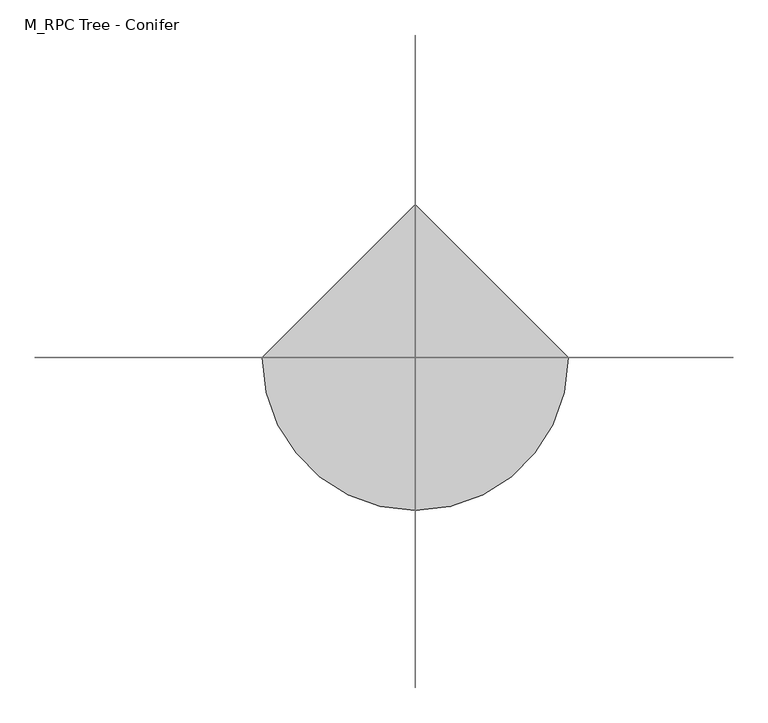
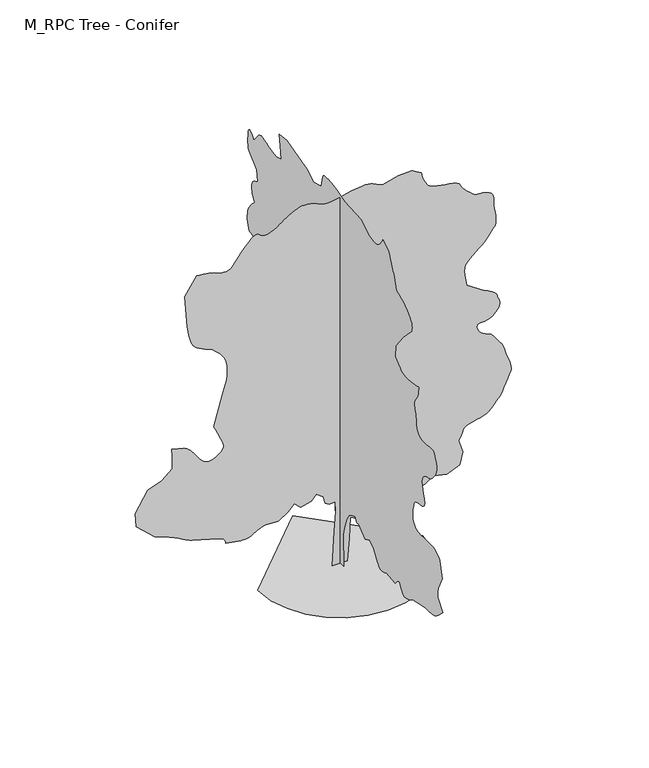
"""IFC4 building model written with IfcOpenShell, lengths in millimetres: geographic element geometry, M_RPC Tree - Conifer : Colorado Spruce - 4.0 Meters."""

from ifc_helpers import new_model, si_unit, origin, place, context, project, spatial, triangles, source, transform, mapped, element, save


def m_rpc_tree_conifer_5a218269(model_context):
    return source(origin(), model_context, "Body", "Tessellation", [
        triangles([(0.1938893, 270.053538, 0.0141112), (0.1938893, -248.7047685, 0.0141112), (0.1938893, -203.5947312, 1285.634317), (0.1938893, -293.81397, 1669.0638199), (0.1938893, -429.1420106, 2029.9390308), (0.1938893, -587.0254695, 2278.0392941), (0.1938893, -767.4631113, 2390.8143871), (0.1938893, -993.0090826, 2481.0311188), (0.1938893, -1083.2300291, 2278.0392941), (0.1938893, -1241.113488, 2323.1475872), (0.1938893, -1421.5510208, 2142.7099091), (0.1938893, -1669.651284, 1984.8265228), (0.1938893, -1962.8640553, 2120.1557625), (0.1938893, -2233.5183197, 1939.7182297), (0.1938893, -2413.9559978, 1623.9513119), (0.1938893, -2457.6185944, 1561.6136925), (0.1938893, -2502.2684853, 1502.2344681), (0.1938893, -2548.8894768, 1448.7761032), (0.1938893, -2598.4727875, 1404.192778), (0.1938893, -2651.9980087, 1371.446957), (0.1938893, -2710.4563591, 1353.492675), (0.1938893, -2774.8312088, 1353.2969021), (0.1938893, -2836.5771492, 1364.2760284), (0.1938893, -2887.6731583, 1377.6260857), (0.1938893, -2929.8856979, 1392.9469528), (0.1938893, -2965.0021591, 1409.8469387), (0.1938893, -2994.7898758, 1427.9302826), (0.1938893, -3021.0272278, 1446.8052933), (0.1938893, -3045.4899788, 1466.0677803), (0.1938893, -3631.911161, 1398.4051952), (0.1938893, -3689.7111214, 1465.1511211), (0.1938893, -3746.3280144, 1526.3678787), (0.1938893, -3800.5779007, 1576.5428684), (0.1938893, -3851.2780037, 1610.1428524), (0.1938893, -3897.2406052, 1621.6513069), (0.1938893, -3937.2864166, 1605.5428425), (0.1938893, -3970.2320801, 1556.2887268), (0.1938893, -4003.3073868, 1485.4677589), (0.1938893, -4044.2740723, 1412.2802204), (0.1938893, -4092.7365211, 1342.6427559), (0.1938893, -4148.3031876, 1282.4759342), (0.1938893, -4210.5865952, 1237.6968361), (0.1938893, -4279.1699089, 1214.2217428), (0.1938893, -4353.6700127, 1217.9675898), (0.1938893, -4428.3785339, 1239.93013), (0.1938893, -4498.3367638, 1266.6260296), (0.1938893, -4564.336805, 1297.2718334), (0.1938893, -4627.2117462, 1331.0718052), (0.1938893, -4687.7118324, 1367.238493), (0.1938893, -4746.6285851, 1404.9802299), (0.1938893, -4804.7538162, 1443.5136337), (0.1938893, -5616.7123947, 1601.39702), (0.1938893, -5718.0044678, 1601.5970078), (0.1938893, -5817.8791855, 1602.976284), (0.1938893, -5915.0046524, 1606.7262005), (0.1938893, -6007.9629318, 1614.0221214), (0.1938893, -6095.4215469, 1626.0596134), (0.1938893, -6176.0050003, 1644.0095352), (0.1938893, -6248.25466, 1669.0638199), (0.1938893, -6317.8800613, 1705.2930038), (0.1938893, -6391.0883835, 1754.5471195), (0.1938893, -6467.2133881, 1814.651445), (0.1938893, -6545.7551056, 1883.430677), (0.1938893, -6626.0467163, 1958.7223022), (0.1938893, -6707.5051163, 2038.3556683), (0.1938893, -6789.5884781, 2120.1557625), (0.1938893, -6473.7967072, 2481.0311188), (0.1938893, -6464.421698, 2548.6310623), (0.1938893, -6456.5884552, 2615.8353905), (0.1938893, -6451.9218796, 2682.2479065), (0.1938893, -6451.9631561, 2747.481134), (0.1938893, -6458.3383484, 2811.1313187), (0.1938893, -6472.6299179, 2872.8147629), (0.1938893, -6496.3802124, 2932.1271309), (0.1938893, -6744.4633255, 3450.8858734), (0.1938893, -6586.5886597, 4082.4156395), (0.1938893, -6574.2132523, 4099.8407387), (0.1938893, -6537.3800354, 4144.4906296), (0.1938893, -6476.5052628, 4204.9197899), (0.1938893, -6391.9214722, 4269.7114746), (0.1938893, -6284.0879379, 4327.3783035), (0.1938893, -6153.3796371, 4366.503241), (0.1938893, -6000.1715469, 4375.6282654), (0.1938893, -5829.4627808, 4368.5449768), (0.1938893, -5653.6293274, 4365.7532867), (0.1938893, -5484.0873505, 4366.1701218), (0.1938893, -5332.3373108, 4368.5449768), (0.1938893, -5209.7540955, 4371.6700768), (0.1938893, -5127.8370026, 4374.4617668), (0.1938893, -5097.9620819, 4375.6282654), (0.1938893, -5080.4619873, 4387.5449799), (0.1938893, -5035.3786926, 4421.1283951), (0.1938893, -4973.6702499, 4473.2949783), (0.1938893, -4906.4621429, 4540.7952187), (0.1938893, -4844.7952675, 4620.5868599), (0.1938893, -4799.7119728, 4709.4203911), (0.1938893, -4782.2118782, 4804.1704216), (0.1938893, -4785.5035378, 4898.837027), (0.1938893, -4794.7119873, 4990.0035553), (0.1938893, -4808.8369972, 5078.1708481), (0.1938893, -4826.9204865, 5164.003981), (0.1938893, -4847.9619347, 5248.0459442), (0.1938893, -4870.9619843, 5330.8792603), (0.1938893, -4894.9622635, 5413.128891), (0.1938893, -4914.7122208, 5437.2123047), (0.1938893, -4936.7951752, 5460.6707565), (0.1938893, -4963.6290024, 5482.9624191), (0.1938893, -4997.5455368, 5503.5041885), (0.1938893, -5040.9620728, 5521.629245), (0.1938893, -5096.2121887, 5536.837619), (0.1938893, -5165.6288818, 5548.4624908), (0.1938893, -5249.5871292, 5555.5876373), (0.1938893, -5340.295546, 5563.8789917), (0.1938893, -5427.796019, 5582.7958603), (0.1938893, -5502.2961227, 5621.8376633), (0.1938893, -5553.9208786, 5690.5044022), (0.1938893, -5572.7958893, 5798.212944), (0.1938893, -5549.0461761, 5954.462709), (0.1938893, -5500.4625137, 6131.0879745), (0.1938893, -5455.8373306, 6293.08797), (0.1938893, -5421.8376617, 6439.7551804), (0.1938893, -5405.1706558, 6570.2134964), (0.1938893, -5412.6289215, 6683.7135452), (0.1938893, -5450.8376358, 6779.4635147), (0.1938893, -5526.5045288, 6856.6303162), (0.1938893, -5619.2959579, 6910.7136429), (0.1938893, -5705.379657, 6943.8389465), (0.1938893, -5786.2962296, 6965.5469238), (0.1938893, -5863.7130157, 6985.2556046), (0.1938893, -5939.1293427, 7012.5051041), (0.1938893, -6014.1712738, 7056.6721756), (0.1938893, -6090.3794128, 7127.2969345), (0.1938893, -6168.0461838, 7217.1304047), (0.1938893, -6242.1300339, 7312.8803741), (0.1938893, -6306.3796005, 7414.9224014), (0.1938893, -6354.4632935, 7523.6727402), (0.1938893, -6380.0466156, 7639.547644), (0.1938893, -6376.796814, 7762.9226715), (0.1938893, -6338.4631073, 7894.1727997), (0.1938893, -6292.1717468, 8018.2977814), (0.1938893, -6260.8800522, 8119.5898544), (0.1938893, -6231.9632126, 8197.1729095), (0.1938893, -6192.7545593, 8250.2981552), (0.1938893, -6130.6711395, 8278.1731979), (0.1938893, -6033.0881424, 8280.0062256), (0.1938893, -5887.3795944, 8255.0478653), (0.1938893, -5714.5046814, 8227.4228073), (0.1938893, -5548.3374985, 8221.8812851), (0.1938893, -5395.5875198, 8238.4645752), (0.1938893, -5262.9624756, 8277.1314011), (0.1938893, -5157.1288193, 8337.8811813), (0.1938893, -5084.8791595, 8420.7563553), (0.1938893, -5052.8369293, 8525.6732071), (0.1938893, -5041.8788773, 8637.7564819), (0.1938893, -5028.5453888, 8742.6733337), (0.1938893, -5013.2120224, 8841.7149628), (0.1938893, -4996.2956131, 8936.0068817), (0.1938893, -4978.2124146, 9026.7571564), (0.1938893, -4959.3374039, 9115.1319946), (0.1938893, -4940.0874161, 9202.340625), (0.1938893, -4921.3373978, 9265.2152756), (0.1938893, -4906.1703003, 9328.2573578), (0.1938893, -4898.0452148, 9391.7156937), (0.1938893, -4900.6287781, 9455.7571335), (0.1938893, -4917.3789185, 9520.5903854), (0.1938893, -4951.9204147, 9586.4241577), (0.1938893, -5007.7536346, 9653.4241379), (0.1938893, -5067.4621994, 9735.6324921), (0.1938893, -5112.5454941, 9838.7157349), (0.1938893, -5145.0458359, 9950.5077484), (0.1938893, -5166.8788055, 10058.7581177), (0.1938893, -5180.0454437, 10151.2164276), (0.1938893, -5186.4624939, 10215.6334259), (0.1938893, -5188.1705292, 10239.8412506), (0.1938893, -5154.9208145, 10232.4242615), (0.1938893, -5065.6291718, 10213.5498322), (0.1938893, -4936.0870789, 10188.3827637), (0.1938893, -4782.0868858, 10162.0076294), (0.1938893, -4619.3785034, 10139.5915558), (0.1938893, -4463.7949768, 10126.2156281), (0.1938893, -4331.0867981, 10127.091156), (0.1938893, -4219.0447998, 10146.5911285), (0.1938893, -4114.1073097, 10183.8830383), (0.1938893, -4015.0781799, 10235.9659058), (0.1938893, -3920.7821915, 10299.8829346), (0.1938893, -3830.036277, 10372.6750031), (0.1938893, -3741.6611481, 10451.3829895), (0.1938893, -3654.4653076, 10533.0500977), (0.1938893, -3677.0194542, 11006.7165344), (0.1938893, -4173.2115509, 11638.2593811), (0.1938893, -4737.0870163, 12224.6759125), (0.1938893, -4745.9201981, 12297.3842651), (0.1938893, -4749.5871254, 12371.5099731), (0.1938893, -4743.0035156, 12448.3843506), (0.1938893, -4721.0452629, 12529.3840576), (0.1938893, -4678.586808, 12615.9264496), (0.1938893, -4610.4618965, 12709.3428406), (0.1938893, -4511.5452599, 12811.0936066), (0.1938893, -4395.5450729, 12908.8853119), (0.1938893, -4279.544886, 12991.2605164), (0.1938893, -4163.557489, 13060.8434784), (0.1938893, -4047.5613716, 13120.1352081), (0.1938893, -3931.5655449, 13171.759964), (0.1938893, -3815.5697182, 13218.260614), (0.1938893, -3699.5736008, 13262.1765381), (0.1938893, -3665.7111328, 13377.8438965), (0.1938893, -3631.6486771, 13491.5520721), (0.1938893, -3597.1903152, 13601.3023499), (0.1938893, -3562.1401291, 13705.1355469), (0.1938893, -3526.3027817, 13801.0517853), (0.1938893, -3489.4817734, 13887.1360657), (0.1938893, -3451.4736282, 13961.3861847), (0.1938893, -3409.3235847, 14042.3440338), (0.1938893, -3362.8316551, 14142.2193329), (0.1938893, -3315.9484703, 14249.5941742), (0.1938893, -3272.6150688, 14353.0111176), (0.1938893, -3236.7774307, 14441.0941132), (0.1938893, -3212.3815361, 14502.3031677), (0.1938893, -3203.3690048, 14525.2610687), (0.1938893, -2819.9397926, 14750.8031158), (0.1938893, -2800.2813995, 14711.9275818), (0.1938893, -2778.6478363, 14671.8858398), (0.1938893, -2753.0645142, 14629.4698242), (0.1938893, -2721.5687622, 14583.5110016), (0.1938893, -2682.1813408, 14532.8024689), (0.1938893, -2632.9270798, 14476.1780182), (0.1938893, -2571.8395294, 14412.4691162), (0.1938893, -2498.2562302, 14357.3027161), (0.1938893, -2414.0227089, 14324.6361053), (0.1938893, -2320.9100784, 14310.677655), (0.1938893, -2220.6975906, 14311.7194519), (0.1938893, -2115.155777, 14324.0105621), (0.1938893, -2006.0640347, 14343.8023773), (0.1938893, -1895.1972553, 14367.3439636), (0.1938893, -1398.9928047, 14705.6779633), (0.1938893, -316.3685889, 14773.3447632), (0.1938893, -176.5034706, 14811.8028809), (0.1938893, -38.4132803, 14849.0947906), (0.1938893, 96.1259095, 14884.011264), (0.1938893, 225.3384985, 14915.3860931), (0.1938893, 347.4494316, 14942.0112122), (0.1938893, 460.68369, 14962.7204132), (0.1938893, 563.2629301, 14976.345163), (0.1938893, 664.4005068, 14986.7201111), (0.1938893, 770.2672279, 14995.9276886), (0.1938893, 874.5589725, 15000.0111603), (0.1938893, 970.9590477, 14995.0114655), (0.1938893, 1053.1549753, 14977.0114014), (0.1938893, 1114.8342047, 14942.0112122), (0.1938893, 1149.6883999, 14886.1367157), (0.1938893, 1262.4592781, 14435.0107635), (0.1938893, 1758.6638741, 14299.7190216), (0.1938893, 2209.7600315, 14570.3443634), (0.1938893, 2773.6272125, 14705.6779633), (0.1938893, 3517.931781, 14931.2200104), (0.1938893, 4014.136377, 14863.5532104), (0.1938893, 3969.0240143, 14435.0107635), (0.1938893, 3878.8071373, 13938.8445374), (0.1938893, 4239.6699944, 13826.0525848), (0.1938893, 4600.54506, 13893.7193848), (0.1938893, 4740.0868332, 13946.1359528), (0.1938893, 4875.8788353, 13994.0109375), (0.1938893, 5004.1707138, 14032.8027557), (0.1938893, 5121.2124069, 14057.9686615), (0.1938893, 5223.2957108, 14065.0112549), (0.1938893, 5306.5871384, 14049.3436066), (0.1938893, 5367.4206345, 14006.4694794), (0.1938893, 5705.7546341, 13600.5105377), (0.1938893, 5782.6295929, 13690.3852844), (0.1938893, 5856.7128616, 13768.6351593), (0.1938893, 5925.2964661, 13823.6352905), (0.1938893, 5985.5881348, 13843.6770905), (0.1938893, 6034.8380356, 13817.1775452), (0.1938893, 6070.2963364, 13732.4687622), (0.1938893, 6089.171347, 13577.9270325), (0.1938893, 6094.8797195, 13406.3014618), (0.1938893, 6093.5048035, 13273.7607147), (0.1938893, 6086.2128067, 13173.717984), (0.1938893, 6074.1710999, 13099.7597076), (0.1938893, 6058.5877487, 13045.3014038), (0.1938893, 6040.6295425, 13003.8853271), (0.1938893, 6021.5045471, 12968.9688538), (0.1938893, 5502.7542343, 12540.4264069), (0.1938893, 5457.6290817, 12066.8006653), (0.1938893, 5529.7543304, 12037.3838562), (0.1938893, 5599.7541275, 12005.6346313), (0.1938893, 5665.3791916, 11969.1345337), (0.1938893, 5724.4627945, 11925.5511475), (0.1938893, 5774.9213425, 11872.4671783), (0.1938893, 5814.5043915, 11807.5502106), (0.1938893, 5841.046376, 11728.4678284), (0.1938893, 5851.212616, 11641.4673248), (0.1938893, 5844.7542892, 11554.4668213), (0.1938893, 5824.5043625, 11467.4674805), (0.1938893, 5793.2126678, 11380.4669769), (0.1938893, 5753.6296188, 11293.4664734), (0.1938893, 5708.5044662, 11206.4671326), (0.1938893, 5660.6294815, 11119.466629), (0.1938893, 5732.8378647, 11046.9664032), (0.1938893, 5803.2544968, 10974.2161926), (0.1938893, 5870.1294846, 10901.0915863), (0.1938893, 5931.671077, 10827.3832947), (0.1938893, 5986.1293808, 10752.8831909), (0.1938893, 6031.7132263, 10677.3831482), (0.1938893, 6066.6296997, 10600.7168976), (0.1938893, 6091.6711945, 10526.008667), (0.1938893, 6109.629982, 10456.0501465), (0.1938893, 6121.6711075, 10390.0495239), (0.1938893, 6128.9631042, 10327.174292), (0.1938893, 6132.7128754, 10266.6744965), (0.1938893, 6134.0877914, 10207.7583252), (0.1938893, 6134.2964996, 10149.6328033), (0.1938893, 5998.9628998, 9766.215509), (0.1938893, 5936.1713837, 9756.1324036), (0.1938893, 5873.5461365, 9743.7157196), (0.1938893, 5811.3377243, 9726.5493256), (0.1938893, 5749.7129974, 9702.2990616), (0.1938893, 5688.9207779, 9668.5493774), (0.1938893, 5629.0459442, 9622.9655319), (0.1938893, 5570.4210342, 9563.2156906), (0.1938893, 5517.0045273, 9492.2572311), (0.1938893, 5471.9206512, 9415.3822723), (0.1938893, 5433.7125183, 9333.5907532), (0.1938893, 5401.0040497, 9247.8401733), (0.1938893, 5372.4621872, 9159.1322159), (0.1938893, 5346.7125961, 9068.4650757), (0.1938893, 5322.2954819, 8976.7985779), (0.1938893, 5269.5039368, 8904.2570755), (0.1938893, 5218.8791199, 8831.5487228), (0.1938893, 5172.587178, 8758.4235352), (0.1938893, 5132.7954208, 8684.6733856), (0.1938893, 5101.7124344, 8610.1732819), (0.1938893, 5081.4206497, 8534.715097), (0.1938893, 5074.2123688, 8458.0482651), (0.1938893, 5096.7540161, 7849.0476471), (0.1938893, 5149.5455612, 7843.7142517), (0.1938893, 5200.212236, 7835.4228973), (0.1938893, 5246.5041779, 7821.2557388), (0.1938893, 5286.2540771, 7798.1728455), (0.1938893, 5317.3789215, 7763.2557907), (0.1938893, 5337.6288483, 7713.5059204), (0.1938893, 5344.8789871, 7646.0478287), (0.1938893, 5342.8791092, 7568.0892151), (0.1938893, 5337.3788635, 7488.8806778), (0.1938893, 5328.8793823, 7408.7559174), (0.1938893, 5318.0457413, 7327.7974869), (0.1938893, 5305.4209305, 7246.2553711), (0.1938893, 5291.5874725, 7164.3388596), (0.1938893, 5277.2121872, 7082.1723633), (0.1938893, 5254.6292633, 6631.088269), (0.1938893, 5683.1711288, 6653.6717743), (0.1938893, 6156.838147, 6743.8802216), (0.1938893, 6257.6296692, 6709.7549789), (0.1938893, 6354.2964432, 6673.8385666), (0.1938893, 6442.6718628, 6634.3799286), (0.1938893, 6518.6300171, 6589.5884766), (0.1938893, 6578.0048813, 6537.7131546), (0.1938893, 6616.6717072, 6476.9633743), (0.1938893, 6630.4633072, 6405.5468033), (0.1938893, 6626.5466858, 6315.0883713), (0.1938893, 6615.5049179, 6200.9215027), (0.1938893, 6598.5047928, 6067.0465347), (0.1938893, 6576.8386734, 5917.3795074), (0.1938893, 6551.5884705, 5755.8794815), (0.1938893, 6523.9634125, 5586.4624969), (0.1938893, 6495.1715652, 5413.128891), (0.1938893, 6292.1717468, 4871.8372215), (0.1938893, 6181.2965378, 4809.6288094), (0.1938893, 6072.2130798, 4751.170459), (0.1938893, 5966.6712662, 4700.2119415), (0.1938893, 5866.4628479, 4660.5036095), (0.1938893, 5773.3377182, 4635.7536667), (0.1938893, 5689.0876282, 4629.7953094), (0.1938893, 5615.5043289, 4646.2951744), (0.1938893, 4984.0039215, 4916.9202255), (0.1938893, 4352.4616562, 4713.9619743), (0.1938893, 3901.3612839, 4398.1699127), (0.1938893, 3450.2693413, 3721.5402832), (0.1938893, 3406.6068901, 3654.2693893), (0.1938893, 3361.9567085, 3589.3695717), (0.1938893, 3315.3316475, 3529.2026047), (0.1938893, 3265.7524063, 3476.1360764), (0.1938893, 3212.2274757, 3432.5401909), (0.1938893, 3153.7691254, 3400.7775948), (0.1938893, 3089.393985, 3383.2193642), (0.1938893, 3025.1481972, 3377.3691399), (0.1938893, 2964.8480988, 3377.8275421), (0.1938893, 2904.1520943, 3382.6275398), (0.1938893, 2838.7273087, 3389.7942535), (0.1938893, 2764.2228447, 3397.3568733), (0.1938893, 2676.306118, 3403.340229), (0.1938893, 2570.6352425, 3405.7735107), (0.1938893, 2457.2686157, 3397.2275208), (0.1938893, 2348.6393452, 3373.2900284), (0.1938893, 2243.9516945, 3336.5318069), (0.1938893, 2142.4224266, 3289.5149094), (0.1938893, 2043.2598747, 3234.8066208), (0.1938893, 1945.6764416, 3174.9689941), (0.1938893, 1848.8848206, 3112.5649544), (0.1938893, 1713.5554356, 2729.1354515), (0.1938893, 1330.126078, 2300.5934406), (0.1938893, 1277.1884663, 2243.2517372), (0.1938893, 1215.9717813, 2187.0974613), (0.1938893, 1147.8467245, 2131.926701), (0.1938893, 1074.1966415, 2077.5474621), (0.1938893, 996.4049509, 2023.7556873), (0.1938893, 915.8548531, 1970.3640335), (0.1938893, 833.9214821, 1917.1639378), (0.1938893, 698.5921698, 2390.8143871), (0.1938893, 473.0461985, 2706.5769447), (0.1938893, 382.8273957, 2503.5852654), (0.1938893, 315.1627396, 2187.8225624), (0.1938893, 292.6085567, 1623.9513119), (0.1938893, 247.4989373, 834.5381596), (279.662708, 0.0007153, 0.0357189), (-306.758565, 0.0007153, 0.0357189), (-216.5405798, 0.0006348, 1353.3176857), (-171.4309605, 0.0005874, 2142.730838), (-193.9855612, 0.0005633, 2548.718557), (-419.5328224, 0.0005646, 2526.1644104), (-577.416245, 0.0005594, 2616.3812874), (-645.0788664, 0.0005417, 2909.5939133), (-915.7374184, 0.000531, 3090.0314461), (-1096.1750238, 0.000543, 2887.0397667), (-1502.158746, 0.0005499, 2774.2646736), (-1750.2630787, 0.0005366, 2999.8104996), (-1998.3631966, 0.0005512, 2751.710527), (-2359.2385529, 0.0005646, 2526.1644104), (-2900.5511513, 0.0005633, 2548.718557), (-3171.2055611, 0.0005702, 2435.9436092), (-3229.3389313, 0.0005728, 2392.7392696), (-3288.2556839, 0.0005753, 2351.3143272), (-3348.7517006, 0.0005775, 2313.4393135), (-3411.6182121, 0.0005792, 2280.8892654), (-3477.6391823, 0.0005809, 2255.43922), (-3547.6017723, 0.0005818, 2238.8684292), (-3622.3018639, 0.0005822, 2232.9517845), (-3705.5520149, 0.0005822, 2235.5808392), (-3799.4520973, 0.0005818, 2242.9475407), (-3902.2269287, 0.0005809, 2254.255862), (-4012.1103378, 0.0005801, 2268.7225662), (-4127.3146431, 0.0005792, 2285.5559864), (-4246.0565231, 0.0005779, 2303.96838), (-4366.5982933, 0.0005771, 2323.1725857), (-4372.1816734, 0.000574, 2371.3726959), (-4382.3066368, 0.000571, 2418.780994), (-4401.5150574, 0.0005684, 2464.6143883), (-4434.3482277, 0.0005659, 2508.0812119), (-4485.3067451, 0.0005633, 2548.3895073), (-4558.9316116, 0.0005611, 2584.7521133), (-4659.8068497, 0.0005594, 2616.3812874), (-5652.224762, 0.0005417, 2909.5939133), (-5733.224469, 0.0005405, 2935.3022278), (-5819.7662796, 0.0005383, 2971.6689034), (-5909.0579224, 0.0005357, 3015.5272728), (-5998.3495651, 0.0005327, 3063.7272377), (-6084.8913757, 0.0005297, 3113.1108513), (-6165.933522, 0.0005271, 3160.5233643), (-6238.6418747, 0.0005245, 3202.8024696), (-6316.8498917, 0.0005219, 3243.4401054), (-6413.9753586, 0.0005194, 3287.6315941), (-6526.8504456, 0.0005163, 3334.7775536), (-6652.3922012, 0.0005138, 3384.2942986), (-6787.3921005, 0.0005107, 3435.5859352), (-6928.6840576, 0.0005073, 3488.0568604), (-7073.1839584, 0.0005043, 3541.1236794), (-7772.3511658, 0.0004651, 4195.2116615), (-7817.4763184, 0.0004328, 4736.5036217), (-7343.8093002, 0.0003871, 5503.3791962), (-6802.5173401, 0.0003751, 5706.3795959), (-6396.5165405, 0.0003548, 6044.7130142), (-6396.5165405, 0.0003243, 6563.463327), (-6419.1000458, 0.0003079, 6834.1305267), (-5945.4330276, 0.0003148, 6721.3385742), (-5892.0996552, 0.000317, 6686.9633469), (-5837.8082016, 0.0003191, 6649.2133255), (-5781.5162888, 0.0003217, 6604.7549927), (-5722.2664169, 0.0003247, 6550.2548309), (-5659.0580658, 0.000329, 6482.2967697), (-5590.9325729, 0.0003342, 6397.6298447), (-5516.8911621, 0.0003402, 6292.7967087), (-5441.849231, 0.0003467, 6182.6714539), (-5369.5995712, 0.0003527, 6085.5465683), (-5297.3493301, 0.0003574, 6003.4213486), (-5222.307399, 0.0003613, 5938.2543961), (-5141.7658035, 0.0003643, 5892.0043121), (-5052.9322723, 0.0003656, 5866.7128326), (-4953.0156967, 0.0003656, 5864.2542618), (-4843.8069557, 0.0003643, 5889.25448), (-4733.8069839, 0.0003613, 5939.8792969), (-4630.4734657, 0.000357, 6008.6710281), (-4541.3899498, 0.0003523, 6088.0882736), (-4473.9734253, 0.0003475, 6170.6716049), (-4435.7650017, 0.0003428, 6248.9214798), (-4434.2650932, 0.0003389, 6315.338356), (-4460.8483543, 0.0003346, 6387.1717621), (-4500.431694, 0.000329, 6483.8385361), (-4550.8483841, 0.0003217, 6601.2133484), (-4609.9735542, 0.0003139, 6735.1301743), (-4675.5983276, 0.0003053, 6881.505542), (-4745.5568481, 0.0002958, 7036.1722641), (-4817.6818062, 0.0002864, 7195.0055923), (-4501.9316025, 0.0002179, 8345.2563126), (-4458.7231934, 0.0002102, 8475.4646439), (-4417.3065353, 0.0002024, 8603.8818054), (-4379.4315216, 0.0001951, 8728.7567413), (-4346.8899033, 0.0001878, 8848.3401398), (-4321.4315735, 0.0001813, 8960.7571152), (-4304.8482834, 0.0001748, 9064.3403275), (-4298.9314934, 0.0001697, 9157.2573303), (-4300.4732597, 0.0001641, 9247.9238892), (-4305.5148125, 0.0001585, 9344.1319702), (-4314.9313889, 0.0001524, 9443.0904648), (-4329.4732338, 0.0001464, 9542.0489594), (-4349.8900108, 0.0001408, 9638.2576218), (-4377.0566666, 0.0001352, 9728.9241806), (-4411.7231552, 0.0001305, 9811.3406616), (-4456.3067711, 0.0001257, 9888.008075), (-4511.5565964, 0.0001214, 9963.5081177), (-4575.6401848, 0.0001171, 10038.0082214), (-4646.8483383, 0.0001124, 10111.7165131), (-4723.3901779, 0.0001081, 10184.8411194), (-4803.515229, 0.0001038, 10257.549472), (-4885.3488968, 9.95e-05, 10330.0915558), (-5015.3072433, 9.65e-05, 10383.3417938), (-5141.8907959, 9.3e-05, 10437.2164124), (-5261.766037, 9e-05, 10492.2584015), (-5371.5575912, 8.66e-05, 10549.0502838), (-5467.9743805, 8.31e-05, 10608.2582977), (-5547.5991714, 7.92e-05, 10670.3835754), (-5607.0996094, 7.54e-05, 10736.0911926), (-5653.9327972, 7.02e-05, 10823.6753815), (-5697.2243408, 6.33e-05, 10942.4251099), (-5736.1411514, 5.51e-05, 11079.342334), (-5769.9326935, 4.65e-05, 11221.3836639), (-5797.8077362, 3.83e-05, 11355.509198), (-5818.9744675, 3.19e-05, 11468.7592621), (-5832.682933, 2.71e-05, 11548.0509338), (-5922.8913803, -4.82e-05, 12811.0936066), (-5471.7660095, -9e-05, 13510.3020905), (-5351.2658066, -8.91e-05, 13495.6355438), (-5232.5160782, -8.83e-05, 13480.0109161), (-5117.3074127, -8.7e-05, 13462.3852478), (-5007.3908661, -8.57e-05, 13441.8016205), (-4904.6407425, -8.44e-05, 13417.2600952), (-4810.72351, -8.27e-05, 13387.8014282), (-4727.4736496, -8.05e-05, 13352.4268433), (-4642.8485825, -7.84e-05, 13318.2184662), (-4547.5567245, -7.71e-05, 13294.3013214), (-4447.5567238, -7.62e-05, 13282.5938965), (-4348.7232216, -7.67e-05, 13285.0937439), (-4256.973008, -7.75e-05, 13303.7600464), (-4178.2647308, -7.97e-05, 13340.5938446), (-4118.5020996, -8.31e-05, 13397.5101379), (-3757.627034, -0.0001115, 13871.1777374), (-3661.2268135, -0.000118, 13981.5105377), (-3566.4058571, -0.0001245, 14086.927359), (-3474.7434288, -0.0001301, 14182.4692017), (-3387.8100723, -0.0001348, 14263.218924), (-3307.1931908, -0.0001387, 14324.2605469), (-3234.4639091, -0.0001408, 14360.5943756), (-3171.2055611, -0.0001412, 14367.3858215), (-3120.3098305, -0.00014, 14350.4275543), (-3078.8847427, -0.0001382, 14322.8024963), (-3039.826371, -0.0001365, 14290.4277283), (-2996.0304977, -0.0001348, 14259.261026), (-2940.4013351, -0.0001331, 14235.2194702), (-2865.8303055, -0.0001326, 14224.177121), (-2765.2219116, -0.0001331, 14232.0522217), (-2645.0176208, -0.0001352, 14266.2605988), (-2521.6594528, -0.0001382, 14323.3443237), (-2403.0302113, -0.0001425, 14393.0110016), (-2297.0301407, -0.0001468, 14465.0949738), (-2211.5466957, -0.0001507, 14529.2608246), (-2154.4674763, -0.0001533, 14575.303363), (-2133.6883667, -0.0001546, 14592.9278687), (-2108.2425362, -0.0001555, 14609.2198975), (-2040.5799511, -0.000158, 14651.5940552), (-1943.7174042, -0.0001615, 14710.0951355), (-1830.6798271, -0.0001654, 14774.9283875), (-1714.4879368, -0.0001688, 14836.2199951), (-1608.1588165, -0.0001718, 14884.0949799), (-1524.7128925, -0.0001731, 14908.678363), (-1445.5419983, -0.0001735, 14914.1361694), (-1347.0376911, -0.0001735, 14910.9282257), (-1234.7250698, -0.0001727, 14898.6359528), (-1114.1250183, -0.0001714, 14876.8861176), (-990.7666323, -0.0001697, 14845.2613037), (-870.1665081, -0.0001671, 14803.3452576), (-757.8539595, -0.0001641, 14750.8031158), (-638.3746971, -0.0001615, 14707.9278259), (-495.2203537, -0.0001606, 14692.3031982), (-332.3389804, -0.0001606, 14699.3446289), (-153.6767934, -0.0001624, 14724.5116974), (36.8217395, -0.0001645, 14763.3035156), (235.2110064, -0.0001675, 14811.1785004), (437.5470208, -0.0001705, 14863.5950684), (577.2137864, -0.0001718, 14882.5113556), (713.9221933, -0.0001727, 14899.0952271), (844.7139919, -0.0001735, 14910.9282257), (966.626536, -0.0001735, 14915.6779358), (1076.7057907, -0.0001735, 14910.9282257), (1171.9892189, -0.0001723, 14894.3443542), (1249.5142834, -0.0001705, 14863.5950684), (1314.5476685, -0.0001684, 14827.5530823), (1374.8477669, -0.0001667, 14796.2608063), (1431.2018852, -0.0001649, 14768.8868958), (1484.3977661, -0.0001636, 14744.6779083), (1535.2311459, -0.0001624, 14722.8862152), (1584.481192, -0.0001611, 14702.5944305), (1632.9437862, -0.0001598, 14683.1363159), (2219.3649685, -0.0001692, 14841.0115631), (2738.1238564, -0.0001705, 14863.5950684), (3099.0032822, -0.0001585, 14660.5946686), (3104.1951164, -0.0001555, 14607.2200195), (3111.5618179, -0.000152, 14552.4280151), (3123.2657547, -0.0001486, 14494.8861786), (3141.482666, -0.0001451, 14433.2190125), (3168.3743385, -0.0001408, 14366.0114868), (3206.1199997, -0.0001365, 14291.8857788), (3256.8825989, -0.0001318, 14209.5105743), (3307.9117516, -0.000127, 14134.0942474), (3350.2577133, -0.000124, 14078.3860199), (3391.8159325, -0.0001214, 14037.3024811), (3440.4786598, -0.0001193, 14005.6358093), (3504.1285538, -0.000118, 13978.3444519), (3590.6662949, -0.0001163, 13950.3019775), (3707.9789017, -0.0001141, 13916.30289), (3852.5787964, -0.0001124, 13883.5525635), (4008.6207253, -0.0001107, 13858.6773376), (4165.450106, -0.0001094, 13835.8019897), (4312.4085777, -0.0001077, 13808.9687439), (4438.8668472, -0.0001055, 13772.2605194), (4534.1587051, -0.0001025, 13719.8020935), (4587.61707, -9.82e-05, 13645.6356903), (4627.1169846, -9.3e-05, 13559.3025879), (4685.5753349, -8.79e-05, 13474.1356934), (4759.8254539, -8.27e-05, 13389.9687378), (4846.7003838, -7.79e-05, 13306.5935944), (4943.0337479, -7.28e-05, 13223.8021362), (5045.6588791, -6.8e-05, 13141.4269318), (5151.491954, -6.29e-05, 13059.2179962), (5300.2840347, -6.2e-05, 13043.968927), (5442.9921844, -6.12e-05, 13024.1771118), (5573.4505005, -5.94e-05, 12995.3021301), (5685.5756332, -5.68e-05, 12952.801236), (5773.2010986, -5.3e-05, 12892.1770294), (5830.2842422, -4.82e-05, 12808.8844391), (5850.6591614, -4.18e-05, 12698.343512), (5851.9928009, -3.49e-05, 12583.176123), (5855.6594376, -2.89e-05, 12487.0098999), (5861.3259521, -2.41e-05, 12406.5508575), (5868.576091, -2.02e-05, 12338.7596466), (5876.9924377, -1.68e-05, 12280.4678558), (5886.201178, -1.33e-05, 12228.4256836), (5895.784314, -1.08e-05, 12179.5926178), (5914.6593246, -3.9e-06, 12063.9671173), (5930.7845032, 3e-06, 11950.7589111), (5941.3675781, 9.5e-06, 11842.2585571), (5943.6592987, 1.55e-05, 11740.8426544), (5934.9092514, 2.11e-05, 11648.9261719), (5912.3676041, 2.58e-05, 11568.842688), (5873.2426666, 2.97e-05, 11502.9257812), (5823.325946, 3.36e-05, 11439.7587067), (5769.4507462, 3.79e-05, 11367.4666077), (5710.492717, 4.26e-05, 11288.0923828), (5645.2007721, 4.74e-05, 11203.5917267), (5572.409285, 5.25e-05, 11115.9668427), (5490.9090271, 5.81e-05, 11027.1338928), (5399.5756485, 6.33e-05, 10939.0497345), (5293.5338654, 6.89e-05, 10848.2587646), (5175.2003906, 7.45e-05, 10751.1332977), (5054.5339188, 8.05e-05, 10649.6743744), (4941.3669891, 8.66e-05, 10545.8411774), (4845.5754524, 9.3e-05, 10441.6335846), (4776.9921387, 9.9e-05, 10338.9665955), (4745.4920265, 0.0001051, 10239.8831085), (4740.4504738, 0.0001107, 10141.8832764), (4743.6587082, 0.0001167, 10041.5498657), (4753.7836716, 0.0001227, 9939.2154144), (4769.4504478, 0.0001292, 9835.3403595), (4789.242263, 0.0001352, 9730.2572388), (4811.7839104, 0.0001417, 9624.3823059), (4835.7004738, 0.0001481, 9518.1323959), (5512.367601, 0.0001748, 9067.0070251), (5538.575885, 0.0001757, 9055.3402954), (5606.2426849, 0.0001774, 9023.0905197), (5698.7841293, 0.0001804, 8974.7149841), (5799.5762329, 0.0001839, 8914.4651733), (5892.1176773, 0.0001882, 8846.7565155), (5959.7844772, 0.0001921, 8775.8399139), (5985.9927612, 0.0001964, 8706.1319595), (6000.0762039, 0.0002002, 8640.3400452), (6032.2847031, 0.0002041, 8574.5068542), (6067.659288, 0.0002084, 8503.1734177), (6091.2014557, 0.0002136, 8420.7563553), (6087.9097961, 0.0002192, 8321.7978607), (6042.8259201, 0.0002265, 8200.7564117), (5940.9094666, 0.0002356, 8052.0480469), (5800.3261871, 0.0002429, 7925.5476288), (5655.7844284, 0.0002468, 7860.1725494), (5517.159169, 0.0002485, 7834.297966), (5394.3253876, 0.0002489, 7826.1310226), (5297.1173676, 0.0002498, 7814.0061813), (5235.4507828, 0.0002519, 7776.2974365), (5219.158754, 0.0002571, 7691.1723999), (5242.6172058, 0.0002631, 7585.0474823), (5290.9503021, 0.0002683, 7496.672644), (5359.9920181, 0.000273, 7423.0887634), (5445.6176056, 0.0002765, 7361.3390442), (5543.6592957, 0.0002795, 7308.4637833), (5649.9923401, 0.0002825, 7261.5474609), (5760.4507141, 0.0002851, 7217.5472397), (5870.8678116, 0.0002933, 7077.8801834), (5976.7427444, 0.0003014, 6941.1722488), (6073.5345108, 0.0003092, 6810.3802322), (6156.700946, 0.0003165, 6688.4632553), (6221.7429062, 0.0003234, 6578.3798584), (6264.0763687, 0.000329, 6483.0885818), (6279.2016083, 0.0003333, 6405.5880798), (6297.617926, 0.0003389, 6312.8379272), (6343.6598831, 0.0003471, 6180.2965988), (6403.4928589, 0.0003561, 6023.2544403), (6463.326416, 0.000366, 5857.1709732), (6509.3683731, 0.0003755, 5697.3795639), (6527.7846909, 0.0003841, 5559.2961319), (6504.743074, 0.0003902, 5458.2540436), (6451.2847092, 0.0003958, 5358.5043182), (6389.1600128, 0.0004039, 5223.6706879), (6320.7014008, 0.0004134, 5068.2540115), (6248.3261673, 0.0004229, 4906.9621124), (6174.326033, 0.0004319, 4754.3371262), (6101.1595688, 0.0004397, 4625.0034508), (6031.1179138, 0.0004453, 4533.5450798), (5963.2011292, 0.0004496, 4461.0867119), (5893.7013016, 0.0004543, 4381.8784653), (5821.0342255, 0.0004591, 4300.3366402), (5743.6174393, 0.0004638, 4220.7949837), (5659.9091766, 0.0004681, 4147.5366646), (5568.3258133, 0.000472, 4084.9364159), (5467.2424484, 0.0004746, 4037.3279846), (5347.7840424, 0.0004767, 4002.0156052), (5210.1174454, 0.0004789, 3970.2570786), (5066.5756256, 0.0004806, 3937.3114151), (4929.3671402, 0.0004827, 3898.4489616), (4810.6586884, 0.0004858, 3848.9362862), (4722.7419617, 0.0004896, 3784.0321083), (4677.8255173, 0.0004948, 3699.0070656), (4653.7836708, 0.0005, 3613.7861046), (4623.3669228, 0.0005038, 3547.5026505), (4591.408699, 0.0005069, 3494.2402039), (4562.6168518, 0.0005099, 3448.0776146), (4541.700396, 0.0005125, 3403.0983833), (4533.4087509, 0.0005155, 3353.3860107), (4542.4919174, 0.0005189, 3293.0234161), (4677.8255173, 0.0005448, 2864.4856201), (4565.0754227, 0.000574, 2368.2810242), (4068.8539673, 0.0005861, 2165.2891994), (3572.649662, 0.0005796, 2278.0600777), (3076.4450661, 0.0005982, 1962.2973747), (2715.5697098, 0.0005861, 2165.2891994), (2196.8108219, 0.0005728, 2390.8351707), (2162.8149319, 0.000574, 2371.039286), (2127.8316021, 0.0005753, 2348.4851395), (2090.8774624, 0.0005771, 2320.4101089), (2050.9607128, 0.0005792, 2284.0434334), (2007.1023434, 0.0005818, 2236.6349899), (1958.3106995, 0.0005857, 2175.4141628), (1903.6022655, 0.0005904, 2097.6223995), (1846.2605621, 0.0005951, 2015.8849468), (1790.1062862, 0.0005995, 1943.618137), (1734.9355259, 0.0006033, 1879.2431419), (1680.5520721, 0.0006068, 1821.1805523), (1626.7645123, 0.0006098, 1767.8513947), (1573.3686436, 0.0006128, 1717.6804745), (1520.1727627, 0.0006158, 1669.0846035), (1587.8353477, 0.0006442, 1195.4342268), (1548.9728943, 0.0006451, 1181.1634409), (1508.9269375, 0.0006455, 1168.2759281), (1466.51441, 0.0006464, 1158.1508921), (1420.547739, 0.0006468, 1152.1675364), (1369.8518509, 0.0006468, 1151.7092068), (1313.2351032, 0.0006464, 1158.1508921), (1249.5142834, 0.0006455, 1172.8800802), (1183.1641909, 0.0006438, 1197.4717478), (1119.1850292, 0.0006421, 1231.5342762), (1057.1766048, 0.0006395, 1273.4885468), (996.7432297, 0.0006365, 1321.7552227), (937.4973547, 0.0006335, 1374.7551853), (879.0390043, 0.00063, 1430.9094612), (820.9764147, 0.0006266, 1488.6469254), (392.4357482, 0.0006132, 1714.193042), (347.3277821, 0.0006628, 879.667309), (-3144.0889023, 0.0, 0.0), (-3060.9640343, -720.4630732, 0.0), (-2824.2261589, -1382.0926735, 0.0), (-2452.8302238, -1965.9307285, 0.0), (-1965.7340836, -2453.0270142, 0.0), (-1381.8960285, -2824.4229492, 0.0), (-720.2664282, -3061.1608246, 0.0), (0.1968085, -3144.2856926, 0.0), (720.6597181, -3061.1608246, 0.0), (1382.2893185, -2824.4229492, 0.0), (1966.1273735, -2453.0270142, 0.0), (2453.2238045, -1965.9307285, 0.0), (2824.6197395, -1382.0926735, 0.0), (3061.3576149, -720.4630732, 0.0), (3144.4824829, 0.0002747, 0.0), (0.1962588, 3144.2856926, 0.0)], [[407, 408, 409], [173, 174, 175], [406, 407, 409], [219, 220, 221], [1, 2, 3], [414, 1, 3], [413, 414, 3], [413, 3, 4], [412, 413, 4], [412, 4, 5], [255, 256, 257], [219, 221, 222], [65, 66, 67], [405, 406, 409], [8, 9, 10], [219, 222, 223], [404, 405, 409], [64, 65, 67], [412, 5, 6], [411, 412, 6], [403, 404, 409], [219, 223, 224], [172, 173, 175], [172, 175, 176], [171, 172, 176], [171, 176, 177], [170, 171, 177], [254, 255, 257], [254, 257, 258], [402, 403, 409], [63, 64, 67], [218, 219, 224], [401, 402, 409], [218, 224, 225], [217, 218, 225], [312, 313, 314], [216, 217, 225], [216, 225, 226], [170, 177, 178], [169, 170, 178], [168, 169, 178], [167, 168, 178], [167, 178, 179], [166, 167, 179], [166, 179, 180], [165, 166, 180], [11, 12, 13], [216, 226, 227], [215, 216, 227], [400, 401, 409], [400, 409, 410], [399, 400, 410], [29, 30, 31], [62, 63, 67], [214, 215, 227], [214, 227, 228], [410, 411, 6], [410, 6, 7], [165, 180, 181], [164, 165, 181], [312, 314, 315], [61, 62, 67], [213, 214, 228], [60, 61, 67], [59, 60, 67], [58, 59, 67], [57, 58, 67], [56, 57, 67], [55, 56, 67], [54, 55, 67], [53, 54, 67], [52, 53, 67], [52, 67, 68], [52, 68, 69], [253, 254, 258], [252, 253, 258], [29, 31, 32], [271, 272, 273], [271, 273, 274], [270, 271, 274], [270, 274, 275], [269, 270, 275], [268, 269, 275], [268, 275, 276], [268, 276, 277], [268, 277, 278], [268, 278, 279], [268, 279, 280], [268, 280, 281], [268, 281, 282], [268, 282, 283], [267, 268, 283], [266, 267, 283], [265, 266, 283], [264, 265, 283], [263, 264, 283], [262, 263, 283], [261, 262, 283], [260, 261, 283], [259, 260, 283], [259, 283, 284], [52, 69, 70], [212, 213, 228], [212, 228, 229], [211, 212, 229], [210, 211, 229], [209, 210, 229], [208, 209, 229], [10, 11, 13], [163, 164, 181], [163, 181, 182], [312, 315, 316], [51, 52, 70], [51, 70, 71], [51, 71, 72], [207, 208, 229], [207, 229, 230], [206, 207, 230], [366, 367, 368], [74, 75, 76], [74, 76, 77], [74, 77, 78], [74, 78, 79], [74, 79, 80], [74, 80, 81], [74, 81, 82], [74, 82, 83], [74, 83, 84], [74, 84, 85], [74, 85, 86], [73, 74, 86], [73, 86, 87], [73, 87, 88], [72, 73, 88], [51, 72, 88], [51, 88, 89], [51, 89, 90], [51, 90, 91], [51, 91, 92], [51, 92, 93], [50, 51, 93], [49, 50, 93], [48, 49, 93], [47, 48, 93], [46, 47, 93], [45, 46, 93], [44, 45, 93], [43, 44, 93], [42, 43, 93], [41, 42, 93], [40, 41, 93], [39, 40, 93], [38, 39, 93], [37, 38, 93], [36, 37, 93], [35, 36, 93], [35, 93, 94], [34, 35, 94], [34, 94, 95], [34, 95, 96], [33, 34, 96], [205, 206, 230], [258, 259, 284], [252, 258, 284], [29, 32, 33], [29, 33, 96], [29, 96, 97], [311, 312, 316], [190, 191, 192], [190, 192, 193], [190, 193, 194], [190, 194, 195], [190, 195, 196], [190, 196, 197], [190, 197, 198], [190, 198, 199], [190, 199, 200], [190, 200, 201], [190, 201, 202], [190, 202, 203], [190, 203, 204], [190, 204, 205], [189, 190, 205], [189, 205, 230], [189, 230, 231], [189, 231, 232], [189, 232, 233], [189, 233, 234], [410, 7, 8], [310, 311, 316], [310, 316, 317], [309, 310, 317], [308, 309, 317], [307, 308, 317], [306, 307, 317], [305, 306, 317], [304, 305, 317], [303, 304, 317], [302, 303, 317], [302, 317, 318], [301, 302, 318], [300, 301, 318], [299, 300, 318], [299, 318, 319], [298, 299, 319], [298, 319, 320], [162, 163, 182], [366, 368, 369], [298, 320, 321], [366, 369, 370], [366, 370, 371], [366, 371, 372], [366, 372, 373], [366, 373, 374], [366, 374, 375], [365, 366, 375], [364, 365, 375], [363, 364, 375], [362, 363, 375], [361, 362, 375], [360, 361, 375], [359, 360, 375], [358, 359, 375], [357, 358, 375], [356, 357, 375], [355, 356, 375], [354, 355, 375], [353, 354, 375], [352, 353, 375], [351, 352, 375], [350, 351, 375], [350, 375, 376], [234, 235, 236], [189, 234, 236], [188, 189, 236], [188, 236, 237], [188, 237, 238], [188, 238, 239], [188, 239, 240], [188, 240, 241], [188, 241, 242], [188, 242, 243], [188, 243, 244], [188, 244, 245], [188, 245, 246], [188, 246, 247], [188, 247, 248], [188, 248, 249], [188, 249, 250], [188, 250, 251], [188, 251, 252], [188, 252, 284], [187, 188, 284], [187, 284, 285], [187, 285, 286], [187, 286, 287], [187, 287, 288], [187, 288, 289], [187, 289, 290], [187, 290, 291], [187, 291, 292], [187, 292, 293], [187, 293, 294], [187, 294, 295], [187, 295, 296], [187, 296, 297], [187, 297, 298], [187, 298, 321], [187, 321, 322], [187, 322, 323], [187, 323, 324], [187, 324, 325], [187, 325, 326], [187, 326, 327], [187, 327, 328], [187, 328, 329], [187, 329, 330], [187, 330, 331], [187, 331, 332], [187, 332, 333], [187, 333, 334], [187, 334, 335], [186, 187, 335], [185, 186, 335], [184, 185, 335], [183, 184, 335], [182, 183, 335], [162, 182, 335], [161, 162, 335], [160, 161, 335], [159, 160, 335], [158, 159, 335], [157, 158, 335], [156, 157, 335], [155, 156, 335], [154, 155, 335], [153, 154, 335], [152, 153, 335], [151, 152, 335], [150, 151, 335], [350, 376, 377], [142, 143, 144], [142, 144, 145], [141, 142, 145], [141, 145, 146], [140, 141, 146], [140, 146, 147], [139, 140, 147], [138, 139, 147], [137, 138, 147], [136, 137, 147], [135, 136, 147], [134, 135, 147], [133, 134, 147], [133, 147, 148], [132, 133, 148], [131, 132, 148], [130, 131, 148], [129, 130, 148], [128, 129, 148], [127, 128, 148], [127, 148, 149], [126, 127, 149], [125, 126, 149], [125, 149, 150], [125, 150, 335], [124, 125, 335], [123, 124, 335], [122, 123, 335], [121, 122, 335], [120, 121, 335], [119, 120, 335], [118, 119, 335], [117, 118, 335], [116, 117, 335], [115, 116, 335], [114, 115, 335], [113, 114, 335], [112, 113, 335], [111, 112, 335], [110, 111, 335], [109, 110, 335], [108, 109, 335], [107, 108, 335], [106, 107, 335], [105, 106, 335], [104, 105, 335], [103, 104, 335], [102, 103, 335], [101, 102, 335], [100, 101, 335], [99, 100, 335], [98, 99, 335], [97, 98, 335], [29, 97, 335], [28, 29, 335], [27, 28, 335], [26, 27, 335], [25, 26, 335], [25, 335, 336], [25, 336, 337], [25, 337, 338], [349, 350, 377], [339, 340, 341], [338, 339, 341], [338, 341, 342], [338, 342, 343], [338, 343, 344], [338, 344, 345], [338, 345, 346], [348, 349, 377], [347, 348, 377], [346, 347, 377], [338, 346, 377], [20, 21, 22], [19, 20, 22], [19, 22, 23], [18, 19, 23], [17, 18, 23], [17, 23, 24], [17, 24, 25], [16, 17, 25], [15, 16, 25], [14, 15, 25], [14, 25, 338], [13, 14, 338], [10, 13, 338], [8, 10, 338], [8, 338, 377], [410, 8, 377], [398, 399, 410], [398, 410, 377], [397, 398, 377], [396, 397, 377], [395, 396, 377], [394, 395, 377], [393, 394, 377], [393, 377, 378], [392, 393, 378], [391, 392, 378], [390, 391, 378], [389, 390, 378], [389, 378, 379], [389, 379, 380], [388, 389, 380], [388, 380, 381], [387, 388, 381], [387, 381, 382], [386, 387, 382], [386, 382, 383], [385, 386, 383], [384, 385, 383], [472, 473, 474], [415, 416, 417], [793, 415, 417], [792, 793, 417], [792, 417, 418], [776, 777, 778], [776, 778, 779], [776, 779, 780], [776, 780, 781], [776, 781, 782], [776, 782, 783], [776, 783, 784], [776, 784, 785], [776, 785, 786], [776, 786, 787], [776, 787, 788], [776, 788, 789], [443, 444, 445], [471, 472, 474], [471, 474, 475], [471, 475, 476], [471, 476, 477], [471, 477, 478], [471, 478, 479], [471, 479, 480], [471, 480, 481], [471, 481, 482], [776, 789, 790], [776, 790, 791], [539, 540, 541], [759, 760, 761], [471, 482, 483], [424, 425, 426], [423, 424, 426], [539, 541, 542], [613, 614, 615], [756, 757, 758], [756, 758, 759], [755, 756, 759], [539, 542, 543], [538, 539, 543], [538, 543, 544], [538, 544, 545], [538, 545, 546], [538, 546, 547], [538, 547, 548], [538, 548, 549], [538, 549, 550], [754, 755, 759], [471, 483, 484], [538, 550, 551], [537, 538, 551], [443, 445, 446], [792, 418, 419], [536, 537, 551], [535, 536, 551], [534, 535, 551], [533, 534, 551], [532, 533, 551], [531, 532, 551], [530, 531, 551], [529, 530, 551], [528, 529, 551], [527, 528, 551], [526, 527, 551], [525, 526, 551], [524, 525, 551], [524, 551, 552], [523, 524, 552], [522, 523, 552], [522, 552, 553], [521, 522, 553], [520, 521, 553], [519, 520, 553], [613, 615, 616], [420, 421, 422], [419, 420, 422], [612, 613, 616], [612, 616, 617], [612, 617, 618], [612, 618, 619], [776, 791, 792], [776, 792, 419], [775, 776, 419], [774, 775, 419], [773, 774, 419], [772, 773, 419], [771, 772, 419], [770, 771, 419], [769, 770, 419], [768, 769, 419], [767, 768, 419], [766, 767, 419], [765, 766, 419], [764, 765, 419], [466, 467, 468], [466, 468, 469], [466, 469, 470], [465, 466, 470], [464, 465, 470], [463, 464, 470], [462, 463, 470], [461, 462, 470], [461, 470, 471], [461, 471, 484], [461, 484, 485], [461, 485, 486], [460, 461, 486], [459, 460, 486], [459, 486, 487], [458, 459, 487], [457, 458, 487], [456, 457, 487], [455, 456, 487], [454, 455, 487], [453, 454, 487], [452, 453, 487], [451, 452, 487], [451, 487, 488], [451, 488, 489], [450, 451, 489], [450, 489, 490], [449, 450, 490], [449, 490, 491], [449, 491, 492], [448, 449, 492], [518, 519, 553], [518, 553, 554], [611, 612, 619], [611, 619, 620], [611, 620, 621], [448, 492, 493], [754, 759, 761], [754, 761, 762], [753, 754, 762], [752, 753, 762], [501, 502, 503], [611, 621, 622], [763, 764, 419], [447, 448, 493], [517, 518, 554], [500, 501, 503], [611, 622, 623], [762, 763, 419], [762, 419, 422], [752, 762, 422], [751, 752, 422], [750, 751, 422], [749, 750, 422], [748, 749, 422], [747, 748, 422], [747, 422, 423], [427, 428, 429], [517, 554, 555], [426, 427, 429], [517, 555, 556], [516, 517, 556], [516, 556, 557], [516, 557, 558], [516, 558, 559], [516, 559, 560], [516, 560, 561], [516, 561, 562], [516, 562, 563], [516, 563, 564], [516, 564, 565], [516, 565, 566], [516, 566, 567], [516, 567, 568], [516, 568, 569], [516, 569, 570], [516, 570, 571], [515, 516, 571], [515, 571, 572], [514, 515, 572], [514, 572, 573], [442, 443, 446], [442, 446, 447], [442, 447, 493], [441, 442, 493], [440, 441, 493], [439, 440, 493], [438, 439, 493], [437, 438, 493], [436, 437, 493], [435, 436, 493], [434, 435, 493], [433, 434, 493], [432, 433, 493], [431, 432, 493], [430, 431, 493], [429, 430, 493], [426, 429, 493], [426, 493, 494], [423, 426, 494], [423, 494, 495], [747, 423, 495], [747, 495, 496], [746, 747, 496], [746, 496, 497], [746, 497, 498], [746, 498, 499], [746, 499, 500], [746, 500, 503], [746, 503, 504], [746, 504, 505], [746, 505, 506], [746, 506, 507], [746, 507, 508], [746, 508, 509], [746, 509, 510], [746, 510, 511], [746, 511, 512], [745, 746, 512], [745, 512, 513], [745, 513, 514], [745, 514, 573], [745, 573, 574], [745, 574, 575], [745, 575, 576], [745, 576, 577], [745, 577, 578], [745, 578, 579], [745, 579, 580], [745, 580, 581], [745, 581, 582], [745, 582, 583], [745, 583, 584], [745, 584, 585], [745, 585, 586], [745, 586, 587], [745, 587, 588], [745, 588, 589], [745, 589, 590], [745, 590, 591], [745, 591, 592], [745, 592, 593], [745, 593, 594], [745, 594, 595], [745, 595, 596], [745, 596, 597], [745, 597, 598], [745, 598, 599], [745, 599, 600], [745, 600, 601], [745, 601, 602], [745, 602, 603], [745, 603, 604], [745, 604, 605], [745, 605, 606], [745, 606, 607], [745, 607, 608], [745, 608, 609], [745, 609, 610], [745, 610, 611], [745, 611, 623], [745, 623, 624], [745, 624, 625], [745, 625, 626], [745, 626, 627], [745, 627, 628], [745, 628, 629], [745, 629, 630], [745, 630, 631], [745, 631, 632], [745, 632, 633], [745, 633, 634], [745, 634, 635], [745, 635, 636], [712, 713, 714], [647, 648, 649], [646, 647, 649], [645, 646, 649], [645, 649, 650], [644, 645, 650], [644, 650, 651], [643, 644, 651], [643, 651, 652], [642, 643, 652], [642, 652, 653], [642, 653, 654], [642, 654, 655], [642, 655, 656], [642, 656, 657], [642, 657, 658], [642, 658, 659], [642, 659, 660], [642, 660, 661], [642, 661, 662], [642, 662, 663], [642, 663, 664], [642, 664, 665], [642, 665, 666], [642, 666, 667], [642, 667, 668], [642, 668, 669], [642, 669, 670], [642, 670, 671], [642, 671, 672], [641, 642, 672], [641, 672, 673], [640, 641, 673], [640, 673, 674], [639, 640, 674], [639, 674, 675], [638, 639, 675], [637, 638, 675], [637, 675, 676], [636, 637, 676], [690, 691, 692], [690, 692, 693], [689, 690, 693], [688, 689, 693], [725, 726, 727], [725, 727, 728], [724, 725, 728], [724, 728, 729], [723, 724, 729], [723, 729, 730], [722, 723, 730], [722, 730, 731], [721, 722, 731], [721, 731, 732], [721, 732, 733], [721, 733, 734], [721, 734, 735], [721, 735, 736], [721, 736, 737], [721, 737, 738], [721, 738, 739], [721, 739, 740], [721, 740, 741], [721, 741, 742], [721, 742, 743], [721, 743, 744], [721, 744, 745], [720, 721, 745], [719, 720, 745], [718, 719, 745], [717, 718, 745], [716, 717, 745], [715, 716, 745], [714, 715, 745], [712, 714, 745], [711, 712, 745], [710, 711, 745], [709, 710, 745], [708, 709, 745], [707, 708, 745], [687, 688, 693], [636, 676, 677], [687, 693, 694], [686, 687, 694], [685, 686, 694], [685, 694, 695], [685, 695, 696], [685, 696, 697], [685, 697, 698], [685, 698, 699], [685, 699, 700], [685, 700, 701], [685, 701, 702], [685, 702, 703], [685, 703, 704], [684, 685, 704], [684, 704, 705], [684, 705, 706], [706, 707, 745], [684, 706, 745], [683, 684, 745], [682, 683, 745], [681, 682, 745], [680, 681, 745], [636, 677, 678], [745, 636, 678], [680, 745, 679], [808, 809, 794], [807, 808, 794], [807, 794, 795], [806, 807, 795], [806, 795, 796], [806, 796, 797], [805, 806, 797], [804, 805, 797], [804, 797, 798], [804, 798, 799], [804, 799, 800], [804, 800, 801], [804, 801, 802], [804, 802, 803]], closed=False),
    ])


if __name__ == "__main__":
    model = new_model("IFC4")
    model_context = context("Model", 3, world=origin())
    ifc_project = project(units=[si_unit("LENGTHUNIT", "METRE", prefix="MILLI")], contexts=[model_context])
    site = spatial("IfcSite", under=ifc_project)
    building = spatial("IfcBuilding", under=site)
    placement = place(None, origin())
    m_rpc_tree_conifer_shape = m_rpc_tree_conifer_5a218269(model_context)
    element("IfcGeographicElement", 1, ObjectType="M_RPC Tree - Conifer : Colorado Spruce - 4.0 Meters", at=placement, inside=building, context=model_context, shape_type="MappedRepresentation", body=[
        mapped(m_rpc_tree_conifer_shape, transform((0.0, 0.0, 0.0), x_axis=(1.0, 0.0, 0.0), y_axis=(0.0, 1.0, 0.0), z_axis=(0.0, 0.0, 1.0))),
    ])
    save(model, "model.ifc")
